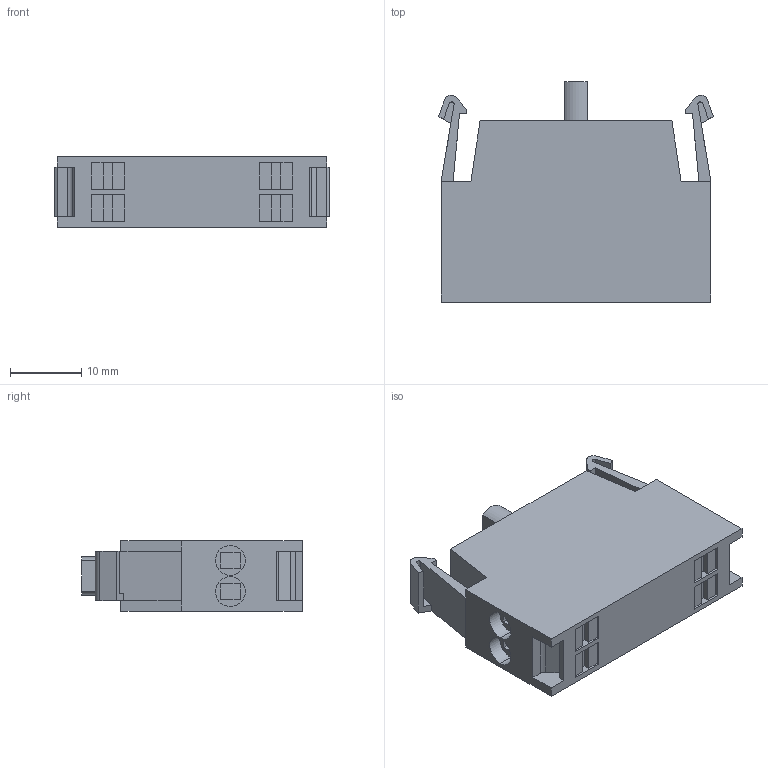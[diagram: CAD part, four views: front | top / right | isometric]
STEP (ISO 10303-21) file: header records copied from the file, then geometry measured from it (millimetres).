
FILE_DESCRIPTION (( 'STEP AP203' ), '1' );
FILE_NAME ('ZF_STEP_E2_CPxxx2M1_A19.STEP', '2019-04-09T15:23:12', ( 'utente' ), ( 'Microsoft' ), 'SwSTEP 2.0', 'SolidWorks 2014', '' );
FILE_SCHEMA (( 'CONFIG_CONTROL_DESIGN' ));
Length unit declared in the file: millimetre
Products named in the file (1): ZF_STEP_E2_CPxxx2M1_A19
Bounding box: 38.69 x 31 x 9.9 mm (x, y, z)
Volume: 8772.7 mm3; surface area: 3938.2 mm2
Topology: 1 solids, 1 shells, 127 faces, 332 edges, 220 vertices
Faces by surface type: plane 109, cylinder 18
Entity records: 3927 total; most frequent: CARTESIAN_POINT 680, ORIENTED_EDGE 664, DIRECTION 624, EDGE_CURVE 332, LINE 296, VECTOR 296, VERTEX_POINT 220, AXIS2_PLACEMENT_3D 164
